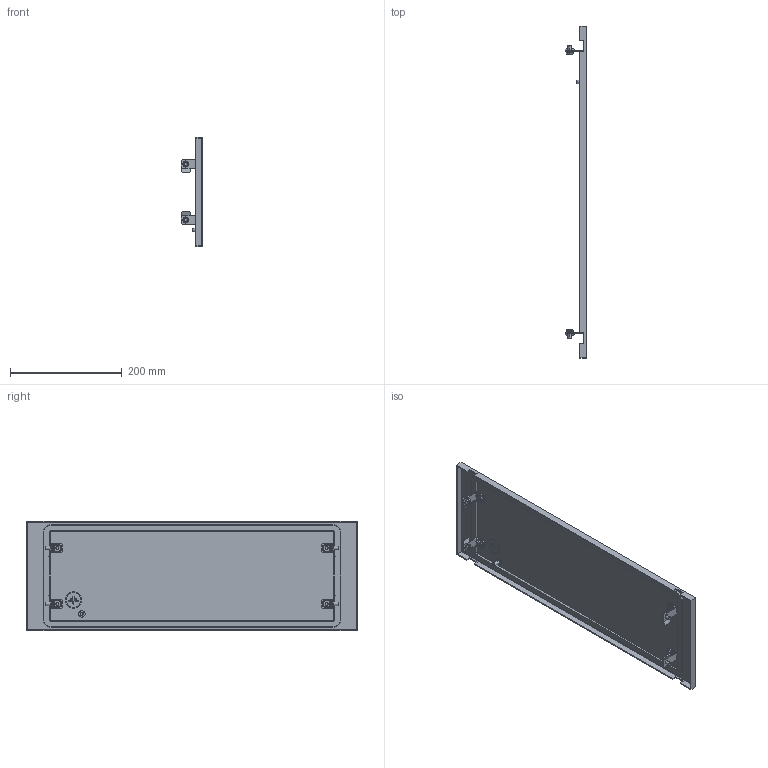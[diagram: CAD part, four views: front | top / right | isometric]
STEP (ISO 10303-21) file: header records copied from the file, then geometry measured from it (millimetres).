
FILE_DESCRIPTION (( 'STEP AP214' ), '1' );
FILE_NAME ('FO-00-PWSB-020-060 Ôàëüø-ïàíåëü âíåøíÿÿ ãëóõàÿ 200õ600 ìì.STEP', '2025-08-25T08:04:07', ( '' ), ( '' ), 'SwSTEP 2.0', 'SolidWorks 2023', '' );
FILE_SCHEMA (( 'AUTOMOTIVE_DESIGN' ));
Length unit declared in the file: millimetre
Products named in the file (1): FO-00-PWSB-020-060 Фальш-панель внешняя глухая 200х600 мм
Bounding box: 38.5 x 595 x 196 mm (x, y, z)
Volume: 326041.6 mm3; surface area: 289612.1 mm2
Topology: 1 solids, 10 shells, 846 faces, 2093 edges, 1287 vertices
Faces by surface type: plane 530, cylinder 202, cone 90, torus 24
Entity records: 25304 total; most frequent: CARTESIAN_POINT 4881, DIRECTION 4361, ORIENTED_EDGE 4182, EDGE_CURVE 2091, AXIS2_PLACEMENT_3D 1487, LINE 1387, VECTOR 1387, VERTEX_POINT 1287
